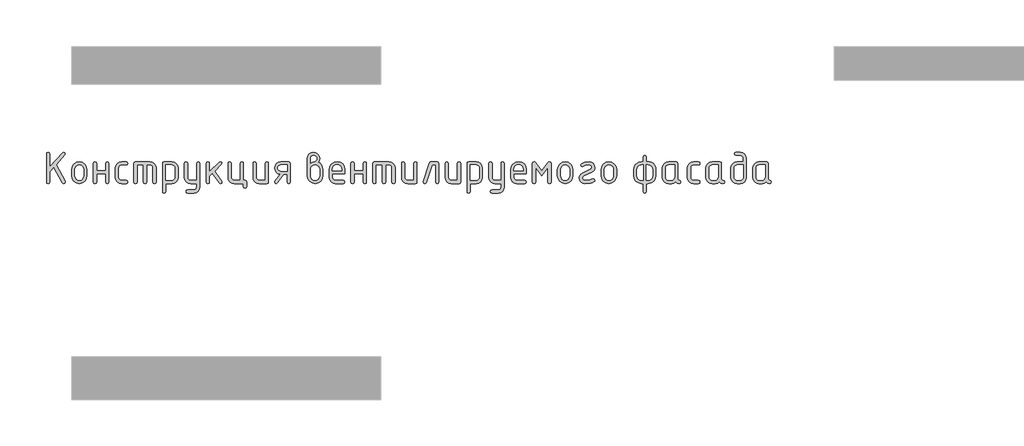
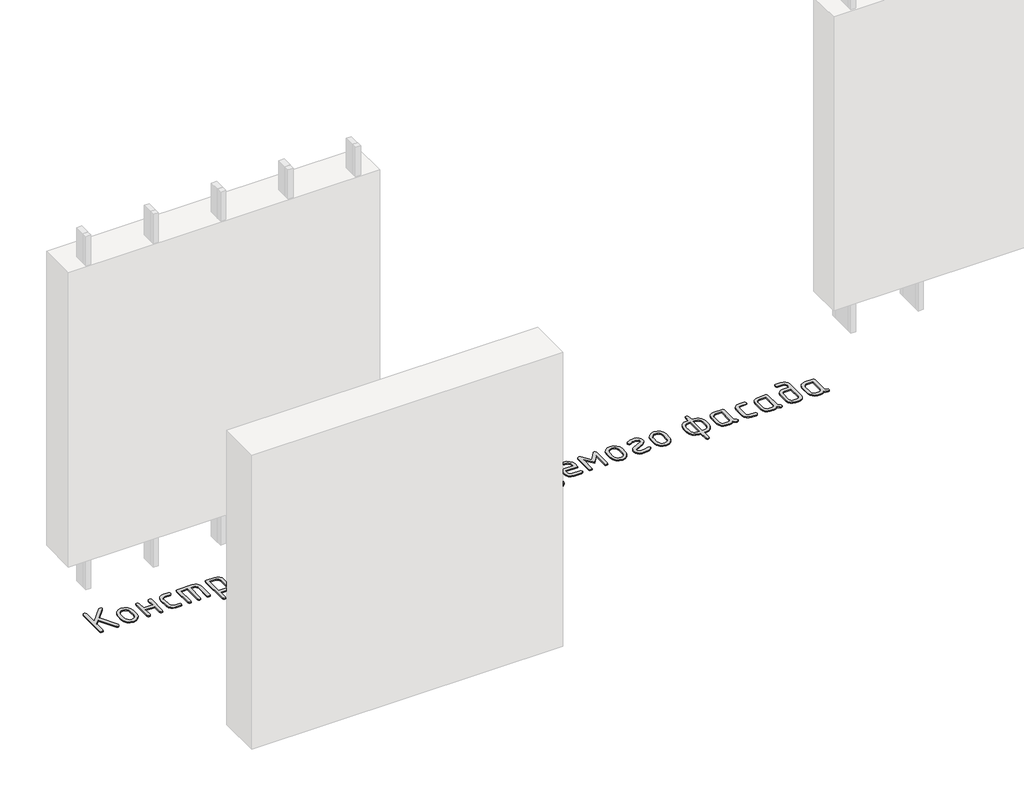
# One storey, part 36 of 42: 1 proxy.
"""IFC4 building model written with IfcOpenShell, lengths in millimetres."""

from ifc_helpers import new_model, si_unit, origin, origin_with_axes, place, context, project, spatial, polyline, outline, extrude, element, save

model = new_model("IFC4")

# Units and contexts
model_context = context("Model", 3, world=origin())
ifc_project = project(units=[si_unit("LENGTHUNIT", "METRE", prefix="MILLI")], contexts=[model_context])

# Site, building, storey
site = spatial("IfcSite", under=ifc_project)
building = spatial("IfcBuilding", under=site)
storey = spatial("IfcBuildingStorey", under=building, Name="Этаж 01", Elevation=0.0)

# Proxy
placement = place(None, origin())
element("IfcBuildingElementProxy", 1, Name="300 мм GOST Common", ObjectType="300 мм GOST Common", at=placement, inside=storey, context=model_context, shape_type="SweptSolid", body=[
    extrude(outline(polyline([(1887.8819839, -38017.1059257), (1848.6606971, -38060.5237288), (1848.6606971, -38161.1594173), (1844.7869898, -38172.5989593), (1833.1658678, -38176.4121399), (1821.5447458, -38172.5989593), (1817.6710384, -38161.1594173), (1817.6710384, -37886.9332187), (1821.5447458, -37875.4936767), (1833.1658678, -37871.6804961), (1844.7869898, -37875.4936767), (1848.6606971, -37886.9332187), (1848.6606971, -38015.0076675), (1973.5070565, -37876.7647369), (1985.0474763, -37871.6804961), (1996.3659649, -37875.4936767), (2000.1387945, -37886.9332187), (1996.0229804, -37897.3438072), (1909.5101832, -37993.1373615), (1998.1212386, -38153.5734071), (2000.1387945, -38161.1594173), (1995.4580648, -38171.6910591), (1985.0474763, -38176.4121399), (1977.0579549, -38174.394584), (1971.4895006, -38168.3419163), (1887.8819839, -38017.1059257)])), origin_with_axes(), (0.0, 0.0, 1.0), 10.0),
    extrude(outline(polyline([(2060.4233649, -38100.7941446), (2060.4233649, -38040.2674675), (2065.9010292, -38011.1944869), (2082.334022, -37986.7618849), (2106.5346051, -37970.1775753), (2135.3150401, -37964.6494722), (2164.3981085, -37970.1170487), (2188.5381649, -37986.5197782), (2204.7895777, -38010.8918535), (2210.2067153, -38040.2674675), (2210.2067153, -38100.7941446), (2204.729051, -38129.8671252), (2188.2960581, -38154.2997272), (2164.0954751, -38170.8840368), (2135.3150401, -38176.4121399), (2106.5346051, -38170.8840368), (2082.334022, -38154.2997272), (2065.9010292, -38129.8671252), (2060.4233649, -38100.7941446)]), holes=[polyline([(2179.2170566, -38099.90642), (2179.2170566, -38039.2990406), (2175.9990549, -38021.8673576), (2166.3450499, -38007.1795506), (2152.1515441, -37997.1926489), (2135.3150401, -37993.8636817), (2118.4785361, -37997.1926489), (2104.2850303, -38007.1795506), (2094.6310253, -38021.8673576), (2091.4130236, -38039.2990406), (2091.4130236, -38099.90642), (2094.6007619, -38117.4995075), (2104.1639769, -38132.1873145), (2118.3272194, -38142.1136896), (2135.3150401, -38145.4224812), (2152.1515441, -38142.093514), (2166.3450499, -38132.1066123), (2175.9990549, -38117.3986297), (2179.2170566, -38099.90642)])]), origin_with_axes(), (0.0, 0.0, 1.0), 10.0),
    extrude(outline(polyline([(2303.1756914, -38083.4431638), (2303.1756914, -38160.9173106), (2299.301984, -38172.5384326), (2287.680862, -38176.4121399), (2276.05974, -38172.6393104), (2272.1860327, -38161.3208218), (2272.1860327, -37979.7407903), (2276.05974, -37968.4223017), (2287.680862, -37964.6494722), (2299.301984, -37968.3012483), (2303.1756914, -37979.2565769), (2303.1756914, -38052.4535051), (2390.9797244, -38052.4535051), (2390.9797244, -37979.2565769), (2394.8534317, -37968.3012483), (2406.4745537, -37964.6494722), (2418.0956757, -37968.4223017), (2421.9693831, -37979.7407903), (2421.9693831, -38161.3208218), (2418.0956757, -38172.6393104), (2406.4745537, -38176.4121399), (2394.8534317, -38172.5384326), (2390.9797244, -38160.9173106), (2390.9797244, -38083.4431638), (2303.1756914, -38083.4431638)])), origin_with_axes(), (0.0, 0.0, 1.0), 10.0),
    extrude(outline(polyline([(2514.9383591, -38025.5796605), (2514.9383591, -38115.4819516), (2517.1778462, -38126.8912303), (2523.8963074, -38136.5855864), (2533.7016291, -38143.2132575), (2545.2016977, -38145.4224812), (2590.7177589, -38145.4224812), (2602.0362476, -38149.2961886), (2605.8090771, -38160.9173106), (2602.0362476, -38172.5384326), (2590.7177589, -38176.4121399), (2545.2016977, -38176.4121399), (2521.6568203, -38172.0340436), (2501.8645969, -38158.8997547), (2488.4276746, -38139.3899891), (2483.9487004, -38115.8854628), (2483.9487004, -38025.1761493), (2488.4276746, -38001.671623), (2501.8645969, -37982.1618574), (2521.6568203, -37969.0275685), (2545.2016977, -37964.6494722), (2590.7177589, -37964.6494722), (2602.0362476, -37968.5231795), (2605.8090771, -37980.1443015), (2602.0362476, -37991.7654235), (2590.7177589, -37995.6391309), (2545.2016977, -37995.6391309), (2533.5503124, -37997.828179), (2523.775254, -38004.3953235), (2517.1475829, -38014.0695041), (2514.9383591, -38025.5796605)])), origin_with_axes(), (0.0, 0.0, 1.0), 10.0),
    extrude(outline(polyline([(2680.2165389, -37964.6494722), (2819.670003, -37964.6494722), (2843.5578649, -37969.0578318), (2863.5720195, -37982.2829108), (2877.1299952, -38001.8229397), (2881.6493204, -38025.1761493), (2881.6493204, -38161.3208218), (2877.7756131, -38172.6393104), (2866.1544911, -38176.4121399), (2854.5333691, -38172.6393104), (2850.6596617, -38161.3208218), (2850.6596617, -38025.741065), (2848.4302624, -38014.0089774), (2841.7420646, -38004.3146213), (2831.7652507, -37997.8080035), (2819.670003, -37995.6391309), (2788.6803443, -37995.6391309), (2788.6803443, -38161.3208218), (2784.806637, -38172.6393104), (2773.185515, -38176.4121399), (2761.564393, -38172.6393104), (2757.6906856, -38161.3208218), (2757.6906856, -37995.6391309), (2695.7113682, -37995.6391309), (2695.7113682, -38161.3208218), (2691.8376609, -38172.6393104), (2680.2165389, -38176.4121399), (2668.5954169, -38172.6393104), (2664.7217095, -38161.3208218), (2664.7217095, -37979.7407903), (2668.5954169, -37968.4223017), (2680.2165389, -37964.6494722)])), origin_with_axes(), (0.0, 0.0, 1.0), 10.0),
    extrude(outline(polyline([(2943.6286378, -37979.9021948), (2947.3812918, -37968.4626528), (2958.6392537, -37964.6494722), (3033.5309289, -37964.6494722), (3056.7529974, -37969.0275685), (3076.0610074, -37982.1618574), (3089.074243, -38001.671623), (3093.4119882, -38025.1761493), (3093.4119882, -38115.8854628), (3089.1045063, -38139.2386724), (3076.1820608, -38158.7787013), (3057.0253675, -38172.0037803), (3034.0151424, -38176.4121399), (2974.6182965, -38176.4121399), (2974.6182965, -38253.8862867), (2970.7445892, -38265.5074087), (2959.1234672, -38269.381116), (2947.5023452, -38265.5679354), (2943.6286378, -38254.1283934), (2943.6286378, -37979.9021948)]), holes=[polyline([(2974.6182965, -37995.6391309), (2974.6182965, -38145.4224812), (3033.1274178, -38145.4224812), (3044.4055553, -38143.2334331), (3053.8678925, -38136.6662886), (3060.2837202, -38126.992108), (3062.4223295, -38115.4819516), (3062.4223295, -38025.5796605), (3060.3139836, -38013.9181874), (3053.9889458, -38004.2742701), (3044.556872, -37997.7979157), (3033.1274178, -37995.6391309), (2974.6182965, -37995.6391309)])]), origin_with_axes(), (0.0, 0.0, 1.0), 10.0),
    extrude(outline(polyline([(3274.1849973, -38207.8860121), (3274.1849973, -38176.4121399), (3214.7881514, -38176.4121399), (3191.7779263, -38172.0037803), (3172.621233, -38158.7787013), (3159.6987875, -38139.2386724), (3155.3913056, -38115.8854628), (3155.3913056, -37979.7407903), (3159.2650129, -37968.4223017), (3170.8861349, -37964.6494722), (3182.507257, -37968.4223017), (3186.3809643, -37979.7407903), (3186.3809643, -38115.3205471), (3188.5397491, -38126.7500013), (3195.0161036, -38136.5048841), (3204.4986163, -38143.193082), (3215.675876, -38145.4224812), (3274.1849973, -38145.4224812), (3274.1849973, -37979.7407903), (3278.0587046, -37968.4223017), (3289.6798266, -37964.6494722), (3301.3009486, -37968.4626528), (3305.174656, -37979.9021948), (3305.174656, -38208.4509277), (3300.9277008, -38231.9050151), (3288.1868353, -38251.586273), (3269.2520731, -38264.9324053), (3246.423428, -38269.381116), (3186.3809643, -38269.381116), (3175.001949, -38265.5074087), (3171.2089439, -38253.8862867), (3175.8089714, -38243.072187), (3186.3809643, -38238.3914573), (3244.8900855, -38238.3914573), (3256.3195397, -38236.2225847), (3265.7516136, -38229.7159669), (3272.0766514, -38219.920733), (3274.1849973, -38207.8860121)])), origin_with_axes(), (0.0, 0.0, 1.0), 10.0),
    extrude(outline(polyline([(3398.1436321, -38064.0746272), (3493.3722708, -37969.0073929), (3504.1863704, -37964.6494722), (3515.5653857, -37968.4223017), (3519.3583908, -37979.7407903), (3514.7583634, -37990.3127833), (3448.1790185, -38056.8114259), (3516.3724081, -38152.6049803), (3519.3583908, -38161.4822262), (3515.5653857, -38172.6796615), (3504.1863704, -38176.4121399), (3497.0442225, -38174.7980952), (3491.5968216, -38169.955961), (3426.3894147, -38078.358923), (3398.1436321, -38106.6047056), (3398.1436321, -38161.2401195), (3394.2699247, -38172.6191348), (3382.6488027, -38176.4121399), (3371.0276807, -38172.6393104), (3367.1539734, -38161.3208218), (3367.1539734, -37979.7407903), (3371.0276807, -37968.4223017), (3382.6488027, -37964.6494722), (3394.2699247, -37968.4223017), (3398.1436321, -37979.7407903), (3398.1436321, -38064.0746272)])), origin_with_axes(), (0.0, 0.0, 1.0), 10.0),
    extrude(outline(polyline([(3744.1948209, -38145.4224812), (3755.8159429, -38149.2961886), (3759.6896502, -38160.9173106), (3759.6896502, -38207.4017986), (3755.8159429, -38219.0229206), (3744.1948209, -38222.896628), (3732.5736989, -38219.0229206), (3728.6999915, -38207.4017986), (3728.6999915, -38176.4121399), (3638.7977004, -38176.4121399), (3615.5756319, -38172.0037803), (3596.2676219, -38158.7787013), (3583.2543863, -38139.2386724), (3578.9166411, -38115.8854628), (3578.9166411, -37979.7407903), (3582.7903485, -37968.4223017), (3594.4114705, -37964.6494722), (3606.0325925, -37968.4223017), (3609.9062998, -37979.7407903), (3609.9062998, -38115.3205471), (3612.0650847, -38126.7500013), (3618.5414391, -38136.5048841), (3628.0239519, -38143.193082), (3639.2012116, -38145.4224812), (3697.7103328, -38145.4224812), (3697.7103328, -37979.7407903), (3701.5840402, -37968.4223017), (3713.2051622, -37964.6494722), (3724.8262842, -37968.4223017), (3728.6999915, -37979.7407903), (3728.6999915, -38145.4224812), (3744.1948209, -38145.4224812)])), origin_with_axes(), (0.0, 0.0, 1.0), 10.0),
    extrude(outline(polyline([(3971.452318, -37979.7407903), (3971.452318, -38161.3208218), (3967.699664, -38172.6393104), (3956.4417021, -38176.4121399), (3881.5500269, -38176.4121399), (3858.3279584, -38172.0340436), (3839.0199484, -38158.8997547), (3826.0067128, -38139.3899891), (3821.6689676, -38115.8854628), (3821.6689676, -37979.7407903), (3825.542675, -37968.4223017), (3837.163797, -37964.6494722), (3848.784919, -37968.4223017), (3852.6586263, -37979.7407903), (3852.6586263, -38115.3205471), (3854.8174111, -38126.7500013), (3861.2937656, -38136.5048841), (3870.7762783, -38143.193082), (3881.9535381, -38145.4224812), (3940.4626593, -38145.4224812), (3940.4626593, -37979.7407903), (3944.3363666, -37968.4223017), (3955.9574887, -37964.6494722), (3967.5786107, -37968.4223017), (3971.452318, -37979.7407903)])), origin_with_axes(), (0.0, 0.0, 1.0), 10.0),
    extrude(outline(polyline([(4085.0003643, -38085.218613), (4063.6243595, -38078.9137508), (4046.3036421, -38065.4869163), (4034.8338368, -38046.9153142), (4031.0105683, -38025.1761493), (4035.4088402, -38001.671623), (4048.6036558, -37982.1618574), (4068.1537725, -37969.0275685), (4091.6179477, -37964.6494722), (4167.7201564, -37964.6494722), (4179.3412784, -37968.4223017), (4183.2149858, -37979.7407903), (4183.2149858, -38161.3208218), (4179.3412784, -38172.6393104), (4167.7201564, -38176.4121399), (4156.0990344, -38172.6191348), (4152.2253271, -38161.2401195), (4152.2253271, -38085.541422), (4121.4777751, -38085.541422), (4058.3686264, -38170.1980677), (4053.0221032, -38174.8586219), (4046.1825887, -38176.4121399), (4034.8035734, -38172.6393104), (4031.0105683, -38161.3208218), (4033.9965511, -38152.1207668), (4085.0003643, -38085.218613)]), holes=[polyline([(4061.3546091, -38025.9831717), (4063.5940962, -38037.4832403), (4070.3125573, -38047.288562), (4080.117879, -38054.0070232), (4091.6179477, -38056.2465102), (4152.2253271, -38056.2465102), (4152.2253271, -37995.6391309), (4091.6179477, -37995.6391309), (4079.9665623, -37997.8483546), (4070.191504, -38004.4760257), (4063.5638328, -38014.2712596), (4061.3546091, -38025.9831717)])]), origin_with_axes(), (0.0, 0.0, 1.0), 10.0),
    extrude(outline(polyline([(4453.3253703, -37969.3302019), (4471.8566213, -37980.7193049), (4486.1308293, -37997.2935267), (4495.2400942, -38017.3782957), (4498.2765159, -38039.2990406), (4498.2765159, -38100.229229), (4492.7988516, -38129.6754574), (4476.3658588, -38154.2593761), (4452.1652757, -38170.873949), (4423.3848407, -38176.4121399), (4394.453089, -38170.8436856), (4370.2827693, -38154.1383227), (4353.9405664, -38129.5241407), (4348.4931655, -38100.229229), (4348.4931655, -37932.6106844), (4352.8208229, -37909.0052803), (4365.8037952, -37889.3542858), (4384.980664, -37876.0989435), (4407.8900113, -37871.6804961), (4430.9002364, -37876.1292068), (4450.0569298, -37889.4753391), (4462.9793753, -37909.156597), (4467.2868572, -37932.6106844), (4463.7964855, -37953.3309835), (4453.3253703, -37969.3302019)]), holes=[polyline([(4379.4828242, -37979.4179814), (4397.9636363, -37968.0994928), (4414.8304037, -37964.3266632), (4423.9094052, -37961.683665), (4432.2620867, -37953.7546703), (4438.1331744, -37943.8888219), (4440.0902036, -37933.9826224), (4437.9112432, -37922.1799204), (4431.3743621, -37912.4351253), (4421.6093915, -37905.8982442), (4409.7461628, -37903.7192838), (4398.0947774, -37905.9285075), (4388.3197191, -37912.5561787), (4381.6920479, -37922.3312371), (4379.4828242, -37933.9826224), (4379.4828242, -37979.4179814)]), polyline([(4467.2868572, -38099.90642), (4467.2868572, -38039.2990406), (4464.0991189, -38021.8673576), (4454.5359039, -38007.1795506), (4440.3726614, -37997.1926489), (4423.3848407, -37993.8636817), (4406.39702, -37997.1926489), (4392.2337775, -38007.1795506), (4382.6705625, -38021.8673576), (4379.4828242, -38039.2990406), (4379.4828242, -38099.90642), (4382.6705625, -38117.4995075), (4392.2337775, -38132.1873145), (4406.39702, -38142.1136896), (4423.3848407, -38145.4224812), (4440.3726614, -38142.093514), (4454.5359039, -38132.1066123), (4464.0991189, -38117.3986297), (4467.2868572, -38099.90642)])]), origin_with_axes(), (0.0, 0.0, 1.0), 10.0),
    extrude(outline(polyline([(4591.245492, -38083.4431638), (4591.245492, -38114.4328225), (4593.484979, -38126.2254368), (4600.2034402, -38136.2627774), (4610.0087619, -38143.1325553), (4621.5088306, -38145.4224812), (4697.2882303, -38145.4224812), (4708.6672456, -38149.2961886), (4712.4602507, -38160.9173106), (4708.6672456, -38172.5384326), (4697.2882303, -38176.4121399), (4621.5088306, -38176.4121399), (4597.9639531, -38172.0340436), (4578.1717297, -38158.8997547), (4564.7348074, -38139.3899891), (4560.2558333, -38115.8854628), (4560.2558333, -38040.2674675), (4565.8747265, -38011.1944869), (4582.7314061, -37986.7618849), (4607.4565537, -37970.1775753), (4636.680851, -37964.6494722), (4666.1270794, -37970.0161709), (4690.5495936, -37986.116267), (4706.9825865, -38010.04448), (4712.4602507, -38038.8955295), (4712.4602507, -38083.4431638), (4591.245492, -38083.4431638)]), holes=[polyline([(4636.680851, -37991.8461258), (4619.2491679, -37995.175093), (4604.561361, -38005.1619947), (4594.5744592, -38019.8498017), (4591.245492, -38037.2814847), (4591.245492, -38052.4535051), (4682.1162099, -38052.4535051), (4682.1162099, -38037.2814847), (4678.7872427, -38019.8498017), (4668.800341, -38005.1619947), (4654.112534, -37995.175093), (4636.680851, -37991.8461258)])]), origin_with_axes(), (0.0, 0.0, 1.0), 10.0),
    extrude(outline(polyline([(4803.0081598, -38083.4431638), (4803.0081598, -38160.9173106), (4799.1344524, -38172.5384326), (4787.5133304, -38176.4121399), (4775.8922084, -38172.6393104), (4772.0185011, -38161.3208218), (4772.0185011, -37979.7407903), (4775.8922084, -37968.4223017), (4787.5133304, -37964.6494722), (4799.1344524, -37968.3012483), (4803.0081598, -37979.2565769), (4803.0081598, -38052.4535051), (4890.8121927, -38052.4535051), (4890.8121927, -37979.2565769), (4894.6859001, -37968.3012483), (4906.3070221, -37964.6494722), (4917.9281441, -37968.4223017), (4921.8018514, -37979.7407903), (4921.8018514, -38161.3208218), (4917.9281441, -38172.6393104), (4906.3070221, -38176.4121399), (4894.6859001, -38172.5384326), (4890.8121927, -38160.9173106), (4890.8121927, -38083.4431638), (4803.0081598, -38083.4431638)])), origin_with_axes(), (0.0, 0.0, 1.0), 10.0),
    extrude(outline(polyline([(4999.2759982, -37964.6494722), (5138.7294623, -37964.6494722), (5162.6173242, -37969.0578318), (5182.6314788, -37982.2829108), (5196.1894545, -38001.8229397), (5200.7087797, -38025.1761493), (5200.7087797, -38161.3208218), (5196.8350724, -38172.6393104), (5185.2139504, -38176.4121399), (5173.5928284, -38172.6393104), (5169.719121, -38161.3208218), (5169.719121, -38025.741065), (5167.4897218, -38014.0089774), (5160.8015239, -38004.3146213), (5150.82471, -37997.8080035), (5138.7294623, -37995.6391309), (5107.7398036, -37995.6391309), (5107.7398036, -38161.3208218), (5103.8660963, -38172.6393104), (5092.2449743, -38176.4121399), (5080.6238523, -38172.6393104), (5076.7501449, -38161.3208218), (5076.7501449, -37995.6391309), (5014.7708275, -37995.6391309), (5014.7708275, -38161.3208218), (5010.8971202, -38172.6393104), (4999.2759982, -38176.4121399), (4987.6548762, -38172.6393104), (4983.7811688, -38161.3208218), (4983.7811688, -37979.7407903), (4987.6548762, -37968.4223017), (4999.2759982, -37964.6494722)])), origin_with_axes(), (0.0, 0.0, 1.0), 10.0),
    extrude(outline(polyline([(5412.4714475, -37979.7407903), (5412.4714475, -38161.3208218), (5408.7187935, -38172.6393104), (5397.4608316, -38176.4121399), (5322.5691564, -38176.4121399), (5299.3470879, -38172.0340436), (5280.0390779, -38158.8997547), (5267.0258423, -38139.3899891), (5262.6880971, -38115.8854628), (5262.6880971, -37979.7407903), (5266.5618045, -37968.4223017), (5278.1829265, -37964.6494722), (5289.8040485, -37968.4223017), (5293.6777558, -37979.7407903), (5293.6777558, -38115.3205471), (5295.8365406, -38126.7500013), (5302.3128951, -38136.5048841), (5311.7954079, -38143.193082), (5322.9726676, -38145.4224812), (5381.4817888, -38145.4224812), (5381.4817888, -37979.7407903), (5385.3554961, -37968.4223017), (5396.9766182, -37964.6494722), (5408.5977402, -37968.4223017), (5412.4714475, -37979.7407903)])), origin_with_axes(), (0.0, 0.0, 1.0), 10.0),
    extrude(outline(polyline([(5547.8090976, -37964.6494722), (5608.7392859, -37964.6494722), (5620.3604079, -37968.4223017), (5624.2341153, -37979.7407903), (5624.2341153, -38161.3208218), (5620.3604079, -38172.6393104), (5608.7392859, -38176.4121399), (5597.1181639, -38172.6393104), (5593.2444566, -38161.3208218), (5593.2444566, -37995.6391309), (5558.6231973, -37995.6391309), (5501.486014, -38166.1629559), (5496.179842, -38173.8498439), (5487.2017182, -38176.4121399), (5475.8227029, -38172.5787837), (5472.0296978, -38161.0787151), (5472.7560179, -38156.4786876), (5532.6370772, -37976.9969143), (5538.5283404, -37967.7363327), (5547.8090976, -37964.6494722)])), origin_with_axes(), (0.0, 0.0, 1.0), 10.0),
    extrude(outline(polyline([(5835.9967831, -37979.7407903), (5835.9967831, -38161.3208218), (5832.2441291, -38172.6393104), (5820.9861671, -38176.4121399), (5746.0944919, -38176.4121399), (5722.8724235, -38172.0340436), (5703.5644135, -38158.8997547), (5690.5511779, -38139.3899891), (5686.2134327, -38115.8854628), (5686.2134327, -37979.7407903), (5690.08714, -37968.4223017), (5701.708262, -37964.6494722), (5713.329384, -37968.4223017), (5717.2030914, -37979.7407903), (5717.2030914, -38115.3205471), (5719.3618762, -38126.7500013), (5725.8382307, -38136.5048841), (5735.3207434, -38143.193082), (5746.4980031, -38145.4224812), (5805.0071244, -38145.4224812), (5805.0071244, -37979.7407903), (5808.8808317, -37968.4223017), (5820.5019537, -37964.6494722), (5832.1230757, -37968.4223017), (5835.9967831, -37979.7407903)])), origin_with_axes(), (0.0, 0.0, 1.0), 10.0),
    extrude(outline(polyline([(5897.9761005, -37979.9021948), (5901.7287544, -37968.4626528), (5912.9867164, -37964.6494722), (5987.8783916, -37964.6494722), (6011.10046, -37969.0275685), (6030.4084701, -37982.1618574), (6043.4217056, -38001.671623), (6047.7594508, -38025.1761493), (6047.7594508, -38115.8854628), (6043.451969, -38139.2386724), (6030.5295234, -38158.7787013), (6011.3728301, -38172.0037803), (5988.362605, -38176.4121399), (5928.9657592, -38176.4121399), (5928.9657592, -38253.8862867), (5925.0920518, -38265.5074087), (5913.4709298, -38269.381116), (5901.8498078, -38265.5679354), (5897.9761005, -38254.1283934), (5897.9761005, -37979.9021948)]), holes=[polyline([(5928.9657592, -37995.6391309), (5928.9657592, -38145.4224812), (5987.4748804, -38145.4224812), (5998.7530179, -38143.2334331), (6008.2153551, -38136.6662886), (6014.6311829, -38126.992108), (6016.7697921, -38115.4819516), (6016.7697921, -38025.5796605), (6014.6614462, -38013.9181874), (6008.3364085, -38004.2742701), (5998.9043346, -37997.7979157), (5987.4748804, -37995.6391309), (5928.9657592, -37995.6391309)])]), origin_with_axes(), (0.0, 0.0, 1.0), 10.0),
    extrude(outline(polyline([(6228.5324599, -38207.8860121), (6228.5324599, -38176.4121399), (6169.1356141, -38176.4121399), (6146.125389, -38172.0037803), (6126.9686957, -38158.7787013), (6114.0462501, -38139.2386724), (6109.7387682, -38115.8854628), (6109.7387682, -37979.7407903), (6113.6124756, -37968.4223017), (6125.2335976, -37964.6494722), (6136.8547196, -37968.4223017), (6140.7284269, -37979.7407903), (6140.7284269, -38115.3205471), (6142.8872117, -38126.7500013), (6149.3635662, -38136.5048841), (6158.846079, -38143.193082), (6170.0233387, -38145.4224812), (6228.5324599, -38145.4224812), (6228.5324599, -37979.7407903), (6232.4061672, -37968.4223017), (6244.0272893, -37964.6494722), (6255.6484113, -37968.4626528), (6259.5221186, -37979.9021948), (6259.5221186, -38208.4509277), (6255.2751634, -38231.9050151), (6242.5342979, -38251.586273), (6223.5995357, -38264.9324053), (6200.7708907, -38269.381116), (6140.7284269, -38269.381116), (6129.3494116, -38265.5074087), (6125.5564065, -38253.8862867), (6130.156434, -38243.072187), (6140.7284269, -38238.3914573), (6199.2375482, -38238.3914573), (6210.6670024, -38236.2225847), (6220.0990762, -38229.7159669), (6226.424114, -38219.920733), (6228.5324599, -38207.8860121)])), origin_with_axes(), (0.0, 0.0, 1.0), 10.0),
    extrude(outline(polyline([(6352.4910947, -38083.4431638), (6352.4910947, -38114.4328225), (6354.7305818, -38126.2254368), (6361.4490429, -38136.2627774), (6371.2543646, -38143.1325553), (6382.7544333, -38145.4224812), (6458.5338331, -38145.4224812), (6469.9128484, -38149.2961886), (6473.7058535, -38160.9173106), (6469.9128484, -38172.5384326), (6458.5338331, -38176.4121399), (6382.7544333, -38176.4121399), (6359.2095559, -38172.0340436), (6339.4173324, -38158.8997547), (6325.9804101, -38139.3899891), (6321.501436, -38115.8854628), (6321.501436, -38040.2674675), (6327.1203292, -38011.1944869), (6343.9770088, -37986.7618849), (6368.7021564, -37970.1775753), (6397.9264537, -37964.6494722), (6427.3726821, -37970.0161709), (6451.7951963, -37986.116267), (6468.2281892, -38010.04448), (6473.7058535, -38038.8955295), (6473.7058535, -38083.4431638), (6352.4910947, -38083.4431638)]), holes=[polyline([(6397.9264537, -37991.8461258), (6380.4947707, -37995.175093), (6365.8069637, -38005.1619947), (6355.820062, -38019.8498017), (6352.4910947, -38037.2814847), (6352.4910947, -38052.4535051), (6443.3618127, -38052.4535051), (6443.3618127, -38037.2814847), (6440.0328454, -38019.8498017), (6430.0459437, -38005.1619947), (6415.3581367, -37995.175093), (6397.9264537, -37991.8461258)])]), origin_with_axes(), (0.0, 0.0, 1.0), 10.0),
    extrude(outline(polyline([(6624.1348217, -38100.8748469), (6564.2537625, -38023.3199979), (6564.2537625, -38161.3208218), (6560.3800551, -38172.6393104), (6548.7589331, -38176.4121399), (6537.1378111, -38172.6393104), (6533.2641038, -38161.3208218), (6533.2641038, -37979.7407903), (6537.1378111, -37968.4223017), (6548.7589331, -37964.6494722), (6556.5063478, -37967.0503637), (6564.2537625, -37974.2530383), (6623.6506083, -38051.8885895), (6683.0474542, -37974.2530383), (6690.7948688, -37967.0503637), (6698.5422835, -37964.6494722), (6710.1634055, -37968.4223017), (6714.0371129, -37979.7407903), (6714.0371129, -38161.3208218), (6710.1634055, -38172.6393104), (6698.5422835, -38176.4121399), (6686.9211615, -38172.6393104), (6683.0474542, -38161.3208218), (6683.9351788, -38023.3199979), (6624.1348217, -38100.8748469)])), origin_with_axes(), (0.0, 0.0, 1.0), 10.0),
    extrude(outline(polyline([(6776.0164303, -38100.7941446), (6776.0164303, -38040.2674675), (6781.4940945, -38011.1944869), (6797.9270874, -37986.7618849), (6822.1276705, -37970.1775753), (6850.9081054, -37964.6494722), (6879.9911738, -37970.1170487), (6904.1312302, -37986.5197782), (6920.382643, -38010.8918535), (6925.7997806, -38040.2674675), (6925.7997806, -38100.7941446), (6920.3221164, -38129.8671252), (6903.8891235, -38154.2997272), (6879.6885404, -38170.8840368), (6850.9081054, -38176.4121399), (6822.1276705, -38170.8840368), (6797.9270874, -38154.2997272), (6781.4940945, -38129.8671252), (6776.0164303, -38100.7941446)]), holes=[polyline([(6894.8101219, -38099.90642), (6894.8101219, -38039.2990406), (6891.5921203, -38021.8673576), (6881.9381153, -38007.1795506), (6867.7446095, -37997.1926489), (6850.9081054, -37993.8636817), (6834.0716014, -37997.1926489), (6819.8780956, -38007.1795506), (6810.2240906, -38021.8673576), (6807.006089, -38039.2990406), (6807.006089, -38099.90642), (6810.1938273, -38117.4995075), (6819.7570423, -38132.1873145), (6833.9202847, -38142.1136896), (6850.9081054, -38145.4224812), (6867.7446095, -38142.093514), (6881.9381153, -38132.1066123), (6891.5921203, -38117.3986297), (6894.8101219, -38099.90642)])]), origin_with_axes(), (0.0, 0.0, 1.0), 10.0),
    extrude(outline(polyline([(7123.4395571, -38130.2504608), (7134.8185724, -38134.0434659), (7138.6115775, -38145.4224812), (7136.4931438, -38153.3716515), (7130.1378427, -38159.3032659), (7113.558577, -38166.7883983), (7093.0349896, -38172.1349214), (7040.1548493, -38176.4121399), (7019.6968325, -38172.5586082), (7002.5476073, -38160.9980128), (6990.9264852, -38143.969841), (6987.0527779, -38123.7135797), (6988.9492805, -38108.324672), (6994.6387881, -38095.2458659), (7004.1213009, -38084.4771612), (7017.3968187, -38076.0185581), (7095.9200945, -38038.3306138), (7105.1806761, -38030.3209169), (7108.2675367, -38018.235757), (7106.6030531, -38009.5602666), (7101.6096022, -38002.2567142), (7094.2757865, -37997.2935267), (7085.5902083, -37995.6391309), (7047.2566461, -37998.8672203), (7024.4986155, -38008.9549998), (7017.3968187, -38010.8111513), (7006.8248258, -38006.2111238), (7002.2247983, -37995.6391309), (7004.2423542, -37987.992594), (7010.2950219, -37982.0004529), (7042.4346875, -37968.9872174), (7085.5902083, -37964.6494722), (7105.9876985, -37968.5030039), (7123.1167481, -37980.0635993), (7134.7378701, -37997.0917711), (7138.6115775, -38017.3480324), (7136.6999433, -38032.7369401), (7130.9650406, -38045.8157462), (7121.4068695, -38056.5844509), (7108.02543, -38065.043054), (7030.2284743, -38102.2467849), (7020.6047326, -38110.4985885), (7017.3968187, -38122.8258551), (7019.0613023, -38131.5013455), (7024.0547532, -38138.8048979), (7031.4087445, -38143.7680854), (7040.1548493, -38145.4224812), (7081.6963254, -38141.911934), (7117.7096983, -38131.3802921), (7123.4395571, -38130.2504608)])), origin_with_axes(), (0.0, 0.0, 1.0), 10.0),
    extrude(outline(polyline([(7199.5417658, -38100.7941446), (7199.5417658, -38040.2674675), (7205.0194301, -38011.1944869), (7221.4524229, -37986.7618849), (7245.653006, -37970.1775753), (7274.433441, -37964.6494722), (7303.5165094, -37970.1170487), (7327.6565658, -37986.5197782), (7343.9079786, -38010.8918535), (7349.3251162, -38040.2674675), (7349.3251162, -38100.7941446), (7343.8474519, -38129.8671252), (7327.4144591, -38154.2997272), (7303.213876, -38170.8840368), (7274.433441, -38176.4121399), (7245.653006, -38170.8840368), (7221.4524229, -38154.2997272), (7205.0194301, -38129.8671252), (7199.5417658, -38100.7941446)]), holes=[polyline([(7318.3354575, -38099.90642), (7318.3354575, -38039.2990406), (7315.1174558, -38021.8673576), (7305.4634508, -38007.1795506), (7291.269945, -37997.1926489), (7274.433441, -37993.8636817), (7257.596937, -37997.1926489), (7243.4034312, -38007.1795506), (7233.7494262, -38021.8673576), (7230.5314245, -38039.2990406), (7230.5314245, -38099.90642), (7233.7191628, -38117.4995075), (7243.2823778, -38132.1873145), (7257.4456203, -38142.1136896), (7274.433441, -38145.4224812), (7291.269945, -38142.093514), (7305.4634508, -38132.1066123), (7315.1174558, -38117.3986297), (7318.3354575, -38099.90642)])]), origin_with_axes(), (0.0, 0.0, 1.0), 10.0),
    extrude(outline(polyline([(7607.572272, -38176.4121399), (7592.0774427, -38176.4121399), (7562.2680542, -38170.8840368), (7537.2402732, -38154.2997272), (7520.2625402, -38129.8671252), (7514.6032959, -38100.7941446), (7514.6032959, -38040.2674675), (7520.2625402, -38011.1944869), (7537.2402732, -37986.7618849), (7562.2680542, -37970.1775753), (7592.0774427, -37964.6494722), (7607.572272, -37964.6494722), (7607.572272, -37918.1649841), (7611.4459794, -37906.5438621), (7623.0671014, -37902.6701548), (7634.6882234, -37906.5438621), (7638.5619307, -37918.1649841), (7638.5619307, -37964.6494722), (7665.7989354, -37966.0214102), (7684.0779919, -37970.1372242), (7703.6785475, -37981.6070295), (7718.7396024, -37998.1005491), (7728.3330807, -38018.144967), (7731.5309068, -38040.2674675), (7731.5309068, -38100.7941446), (7725.8716625, -38129.8671252), (7708.8939296, -38154.2997272), (7683.8661486, -38170.8840368), (7654.0567601, -38176.4121399), (7638.5619307, -38176.4121399), (7638.5619307, -38253.8862867), (7634.6882234, -38265.5074087), (7623.0671014, -38269.381116), (7611.4459794, -38265.5074087), (7607.572272, -38253.8862867), (7607.572272, -38176.4121399)]), holes=[polyline([(7607.572272, -38145.4224812), (7607.572272, -37995.6391309), (7592.0774427, -37995.6391309), (7574.2119851, -37998.927747), (7559.1912814, -38008.7935954), (7548.9925363, -38023.3199979), (7545.5929546, -38040.5902764), (7545.5929546, -38100.4713357), (7548.9723608, -38117.8929309), (7559.1105792, -38132.3890701), (7574.1111073, -38142.1641285), (7592.0774427, -38145.4224812), (7607.572272, -38145.4224812)]), polyline([(7638.5619307, -38145.4224812), (7654.0567601, -38145.4224812), (7671.9222176, -38142.1338651), (7686.9429213, -38132.2680167), (7697.1416664, -38117.7416142), (7700.5412481, -38100.4713357), (7700.5412481, -38040.5902764), (7697.1416664, -38023.3199979), (7686.9429213, -38008.7935954), (7671.9222176, -37998.927747), (7654.0567601, -37995.6391309), (7638.5619307, -37995.6391309), (7638.5619307, -38145.4224812)])]), origin_with_axes(), (0.0, 0.0, 1.0), 10.0),
    extrude(outline(polyline([(7973.5569132, -38161.3208218), (7969.7840836, -38172.6393104), (7958.465595, -38176.4121399), (7939.3189895, -38172.3972037), (7924.0057401, -38160.3523949), (7905.5854547, -38172.3972037), (7883.4125153, -38176.4121399), (7853.3912835, -38176.4121399), (7830.169215, -38172.0340436), (7810.861205, -38158.8997547), (7797.8479694, -38139.3899891), (7793.5102242, -38115.8854628), (7793.5102242, -38025.1761493), (7797.8479694, -38001.671623), (7810.861205, -37982.1618574), (7830.169215, -37969.0275685), (7853.3912835, -37964.6494722), (7928.2829587, -37964.6494722), (7939.5409206, -37968.4223017), (7943.2935746, -37979.7407903), (7943.2935746, -38131.0574832), (7947.0764919, -38142.3759718), (7958.4252439, -38146.1488014), (7969.7739958, -38149.9418065), (7973.5569132, -38161.3208218)]), holes=[polyline([(7912.3039159, -37995.6391309), (7853.7947946, -37995.6391309), (7842.5166571, -37997.828179), (7833.0543199, -38004.3953235), (7826.6384922, -38014.0695041), (7824.4998829, -38025.5796605), (7824.4998829, -38115.4819516), (7826.6586677, -38126.8912303), (7833.1350222, -38136.5855864), (7842.6175349, -38143.2132575), (7853.7947946, -38145.4224812), (7883.0090042, -38145.4224812), (7894.2871417, -38143.2334331), (7903.7494789, -38136.6662886), (7910.1653066, -38126.992108), (7912.3039159, -38115.4819516), (7912.3039159, -37995.6391309)])]), origin_with_axes(), (0.0, 0.0, 1.0), 10.0),
    extrude(outline(polyline([(8067.2522094, -38025.5796605), (8067.2522094, -38115.4819516), (8069.4916964, -38126.8912303), (8076.2101576, -38136.5855864), (8086.0154793, -38143.2132575), (8097.515548, -38145.4224812), (8143.0316092, -38145.4224812), (8154.3500978, -38149.2961886), (8158.1229273, -38160.9173106), (8154.3500978, -38172.5384326), (8143.0316092, -38176.4121399), (8097.515548, -38176.4121399), (8073.9706705, -38172.0340436), (8054.1784471, -38158.8997547), (8040.7415248, -38139.3899891), (8036.2625507, -38115.8854628), (8036.2625507, -38025.1761493), (8040.7415248, -38001.671623), (8054.1784471, -37982.1618574), (8073.9706705, -37969.0275685), (8097.515548, -37964.6494722), (8143.0316092, -37964.6494722), (8154.3500978, -37968.5231795), (8158.1229273, -37980.1443015), (8154.3500978, -37991.7654235), (8143.0316092, -37995.6391309), (8097.515548, -37995.6391309), (8085.8641626, -37997.828179), (8076.0891042, -38004.3953235), (8069.4614331, -38014.0695041), (8067.2522094, -38025.5796605)])), origin_with_axes(), (0.0, 0.0, 1.0), 10.0),
    extrude(outline(polyline([(8397.0822487, -38161.3208218), (8393.3094192, -38172.6393104), (8381.9909305, -38176.4121399), (8362.844325, -38172.3972037), (8347.5310757, -38160.3523949), (8329.1107903, -38172.3972037), (8306.9378509, -38176.4121399), (8276.916619, -38176.4121399), (8253.6945506, -38172.0340436), (8234.3865405, -38158.8997547), (8221.373305, -38139.3899891), (8217.0355598, -38115.8854628), (8217.0355598, -38025.1761493), (8221.373305, -38001.671623), (8234.3865405, -37982.1618574), (8253.6945506, -37969.0275685), (8276.916619, -37964.6494722), (8351.8082942, -37964.6494722), (8363.0662562, -37968.4223017), (8366.8189101, -37979.7407903), (8366.8189101, -38131.0574832), (8370.6018275, -38142.3759718), (8381.9505794, -38146.1488014), (8393.2993314, -38149.9418065), (8397.0822487, -38161.3208218)]), holes=[polyline([(8335.8292514, -37995.6391309), (8277.3201302, -37995.6391309), (8266.0419927, -37997.828179), (8256.5796555, -38004.3953235), (8250.1638277, -38014.0695041), (8248.0252185, -38025.5796605), (8248.0252185, -38115.4819516), (8250.1840033, -38126.8912303), (8256.6603577, -38136.5855864), (8266.1428705, -38143.2132575), (8277.3201302, -38145.4224812), (8306.5343397, -38145.4224812), (8317.8124772, -38143.2334331), (8327.2748144, -38136.6662886), (8333.6906422, -38126.992108), (8335.8292514, -38115.4819516), (8335.8292514, -37995.6391309)])]), origin_with_axes(), (0.0, 0.0, 1.0), 10.0),
    extrude(outline(polyline([(8609.5712366, -37932.6106844), (8609.5712366, -38115.4819516), (8605.2032281, -38139.0873557), (8592.0992025, -38158.7383502), (8572.7609291, -38171.9936925), (8549.6901774, -38176.4121399), (8519.6689455, -38176.4121399), (8496.446877, -38172.0037803), (8477.138867, -38158.7787013), (8464.1256314, -38139.2386724), (8459.7878862, -38115.8854628), (8459.7878862, -38025.1761493), (8464.1155437, -38001.671623), (8477.0985159, -37982.1618574), (8496.2753848, -37969.0275685), (8519.1847321, -37964.6494722), (8578.5815779, -37964.6494722), (8578.5815779, -37933.6598135), (8576.473232, -37921.5645658), (8570.1481942, -37911.5877519), (8560.7161204, -37904.899554), (8549.2866662, -37902.6701548), (8505.3846497, -37902.6701548), (8494.4293211, -37898.7964474), (8490.7775449, -37887.1753254), (8494.4898478, -37875.5542034), (8505.6267564, -37871.6804961), (8550.1743908, -37871.6804961), (8573.1846159, -37876.1292068), (8592.3413092, -37889.4753391), (8605.2637548, -37909.156597), (8609.5712366, -37932.6106844)]), holes=[polyline([(8578.5815779, -38115.4819516), (8578.5815779, -37995.6391309), (8520.0724567, -37995.6391309), (8508.7943192, -37997.828179), (8499.331982, -38004.3953235), (8492.9161542, -38014.0695041), (8490.7775449, -38025.5796605), (8490.7775449, -38115.4819516), (8492.9363298, -38126.8912303), (8499.4126842, -38136.5855864), (8508.895197, -38143.2132575), (8520.0724567, -38145.4224812), (8549.2866662, -38145.4224812), (8560.5648037, -38143.2334331), (8570.0271409, -38136.6662886), (8576.4429687, -38126.992108), (8578.5815779, -38115.4819516)])]), origin_with_axes(), (0.0, 0.0, 1.0), 10.0),
    extrude(outline(polyline([(8851.597243, -38161.3208218), (8847.8244134, -38172.6393104), (8836.5059248, -38176.4121399), (8817.3593193, -38172.3972037), (8802.0460699, -38160.3523949), (8783.6257845, -38172.3972037), (8761.4528451, -38176.4121399), (8731.4316133, -38176.4121399), (8708.2095448, -38172.0340436), (8688.9015348, -38158.8997547), (8675.8882992, -38139.3899891), (8671.550554, -38115.8854628), (8671.550554, -38025.1761493), (8675.8882992, -38001.671623), (8688.9015348, -37982.1618574), (8708.2095448, -37969.0275685), (8731.4316133, -37964.6494722), (8806.3232885, -37964.6494722), (8817.5812504, -37968.4223017), (8821.3339044, -37979.7407903), (8821.3339044, -38131.0574832), (8825.1168217, -38142.3759718), (8836.4655737, -38146.1488014), (8847.8143256, -38149.9418065), (8851.597243, -38161.3208218)]), holes=[polyline([(8790.3442457, -37995.6391309), (8731.8351245, -37995.6391309), (8720.5569869, -37997.828179), (8711.0946498, -38004.3953235), (8704.678822, -38014.0695041), (8702.5402127, -38025.5796605), (8702.5402127, -38115.4819516), (8704.6989975, -38126.8912303), (8711.175352, -38136.5855864), (8720.6578647, -38143.2132575), (8731.8351245, -38145.4224812), (8761.049334, -38145.4224812), (8772.3274715, -38143.2334331), (8781.7898087, -38136.6662886), (8788.2056364, -38126.992108), (8790.3442457, -38115.4819516), (8790.3442457, -37995.6391309)])]), origin_with_axes(), (0.0, 0.0, 1.0), 10.0),
])

save(model, "model.ifc")
